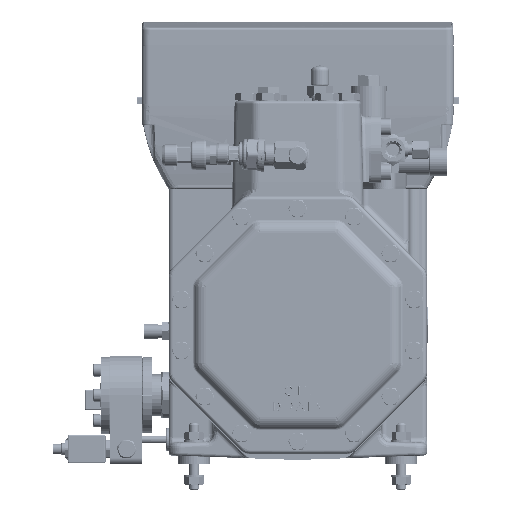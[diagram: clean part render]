
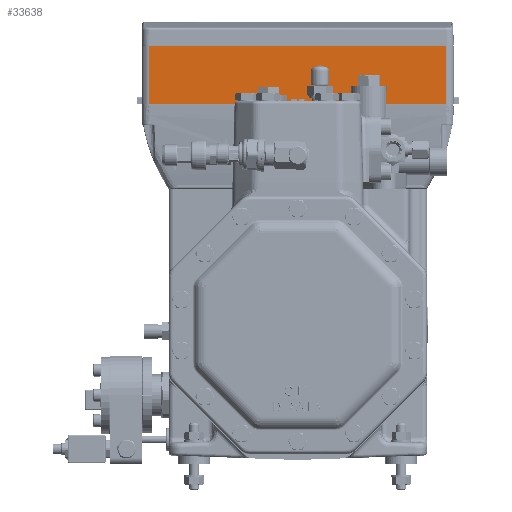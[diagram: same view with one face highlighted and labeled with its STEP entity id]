
A CAD part, left-side view. The second image highlights one B-rep face of the part: STEP entity #33638.
In plain terms, the highlighted planar face has unit normal (-1, 0, 0) as drawn and (1, 0, 0) by its records, which use the part's own axes.
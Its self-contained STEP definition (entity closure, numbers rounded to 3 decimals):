
#21447=LINE('',#190103,#27711);
#21547=LINE('',#190733,#27811);
#21548=LINE('',#190736,#27812);
#21549=LINE('',#190737,#27813);
#27711=VECTOR('',#133553,1.);
#27811=VECTOR('',#133837,1.);
#27812=VECTOR('',#133838,1.);
#27813=VECTOR('',#133839,1.);
#33638=ADVANCED_FACE('',(#41894),#37418,.T.);
#37418=PLANE('',#113167);
#41894=FACE_OUTER_BOUND('',#48525,.T.);
#48525=EDGE_LOOP('',(#70289,#70290,#70291,#70292));
#70289=ORIENTED_EDGE('',*,*,#98425,.F.);
#70290=ORIENTED_EDGE('',*,*,#98426,.T.);
#70291=ORIENTED_EDGE('',*,*,#98229,.T.);
#70292=ORIENTED_EDGE('',*,*,#98427,.T.);
#85501=VERTEX_POINT('',#190102);
#85502=VERTEX_POINT('',#190104);
#85680=VERTEX_POINT('',#190734);
#85681=VERTEX_POINT('',#190735);
#98229=EDGE_CURVE('',#85502,#85501,#21447,.T.);
#98425=EDGE_CURVE('',#85680,#85681,#21547,.T.);
#98426=EDGE_CURVE('',#85680,#85502,#21548,.T.);
#98427=EDGE_CURVE('',#85501,#85681,#21549,.T.);
#113167=AXIS2_PLACEMENT_3D('',#190738,#133840,#133841);
#133553=DIRECTION('',(0.,1.,0.));
#133837=DIRECTION('',(0.,1.,0.));
#133838=DIRECTION('',(0.,0.,-1.));
#133839=DIRECTION('',(0.,0.,1.));
#133840=DIRECTION('',(1.,0.,0.));
#133841=DIRECTION('',(0.,0.,1.));
#190102=CARTESIAN_POINT('',(73.,116.,66.));
#190103=CARTESIAN_POINT('',(73.,0.,66.));
#190104=CARTESIAN_POINT('',(73.,-116.,66.));
#190733=CARTESIAN_POINT('',(73.,0.,111.5));
#190734=CARTESIAN_POINT('',(73.,-116.,111.5));
#190735=CARTESIAN_POINT('',(73.,116.,111.5));
#190736=CARTESIAN_POINT('',(73.,-116.,114.));
#190737=CARTESIAN_POINT('',(73.,116.,114.));
#190738=CARTESIAN_POINT('',(73.,0.,114.));
